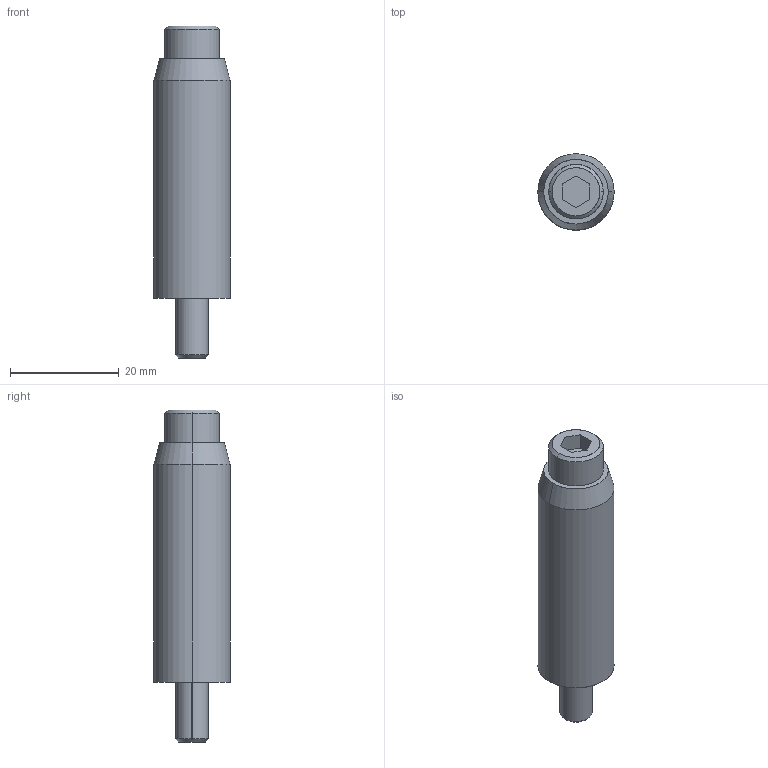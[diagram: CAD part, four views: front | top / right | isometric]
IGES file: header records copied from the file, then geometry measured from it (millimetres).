
Global section: file name: E:\UnigraphicsGraphicData\MISUMI_PRESS-PARTS\IGES\3d_sgc14-50_00796_r00.igs; native system: NX V5.0; preprocessor: UGS NX IGES V5.0; author: MISUMI; date: 20110105.162537; units: millimetre
Bounding box: 14 x 14 x 61 mm (x, y, z)
Surface area: 3608.8 mm2 (no closed solid volume)
Topology: 0 solids, 0 shells, 27 faces, 180 edges, 180 vertices
Faces by surface type: bspline 27
